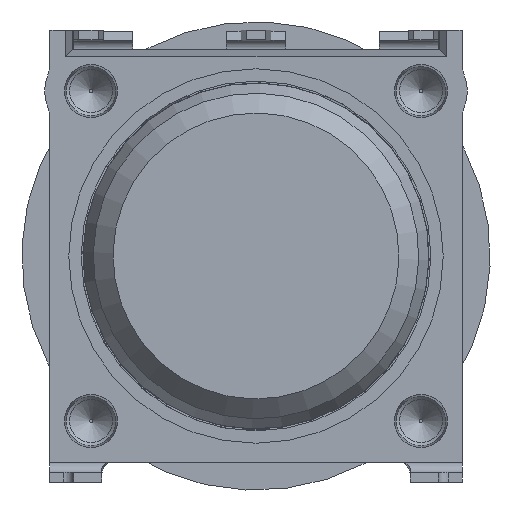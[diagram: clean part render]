
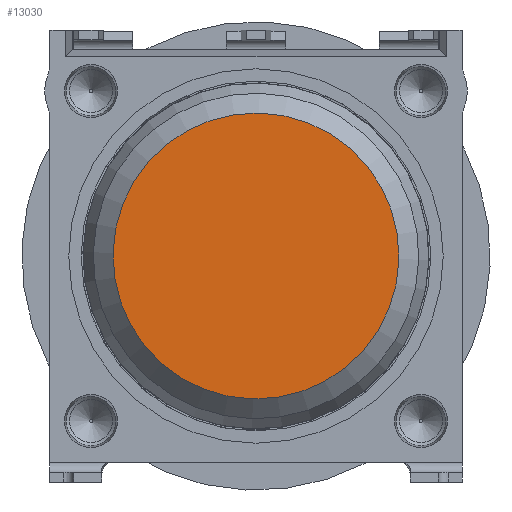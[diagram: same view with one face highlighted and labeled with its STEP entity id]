
A CAD part, left-side view. The second image highlights one B-rep face of the part: STEP entity #13030.
In plain terms, the highlighted planar face has unit normal (-1, 0, 0) as drawn and (0, 0, 1) by its records, which use the part's own axes.
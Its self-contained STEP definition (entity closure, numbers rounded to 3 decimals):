
#4908=ORIENTED_EDGE('',*,*,#7840,.T.);
#7840=EDGE_CURVE('',#9478,#9478,#10417,.T.);
#9478=VERTEX_POINT('',#20547);
#10417=CIRCLE('',#14772,4.334);
#11003=EDGE_LOOP('',(#4908));
#11872=FACE_BOUND('',#11003,.T.);
#12492=PLANE('',#14771);
#13030=ADVANCED_FACE('',(#11872),#12492,.T.);
#14771=AXIS2_PLACEMENT_3D('',#20545,#17070,#17071);
#14772=AXIS2_PLACEMENT_3D('',#20546,#17072,#17073);
#17070=DIRECTION('',(0.,0.,1.));
#17071=DIRECTION('',(1.,0.,0.));
#17072=DIRECTION('',(0.,0.,1.));
#17073=DIRECTION('',(1.,0.,0.));
#20545=CARTESIAN_POINT('',(0.,0.,1.4));
#20546=CARTESIAN_POINT('',(0.,0.,1.4));
#20547=CARTESIAN_POINT('',(4.334,0.,1.4));
